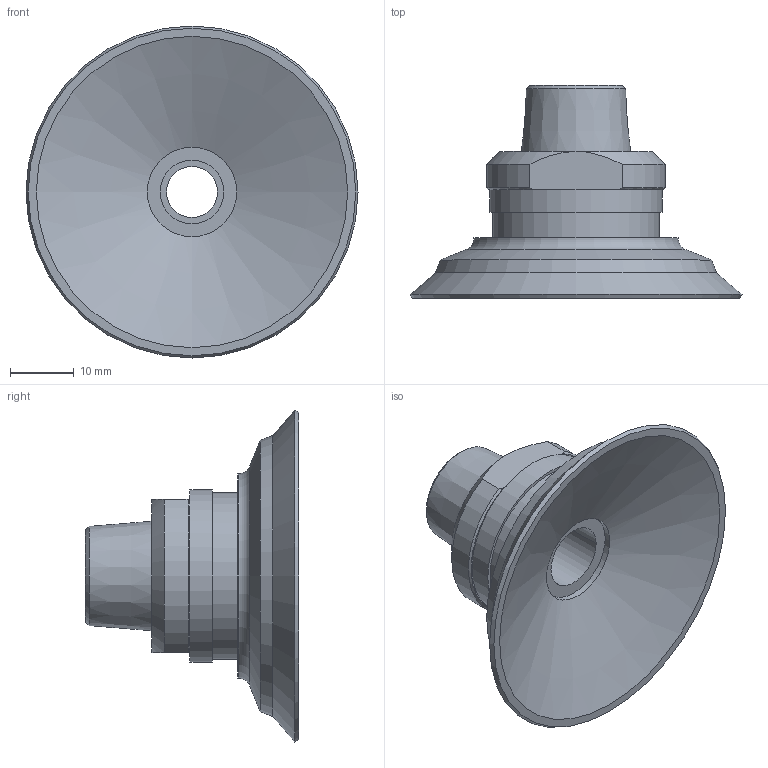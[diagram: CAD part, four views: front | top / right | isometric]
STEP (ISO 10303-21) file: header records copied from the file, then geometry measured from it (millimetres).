
FILE_DESCRIPTION (( 'STEP AP214' ), '1' );
FILE_NAME ('PU50-38MS.STEP', '2025-10-23T14:10:15', ( '' ), ( '' ), 'SwSTEP 2.0', 'SolidWorks 2025', '' );
FILE_SCHEMA (( 'AUTOMOTIVE_DESIGN' ));
Length unit declared in the file: inch
Products named in the file (3): 403.012; PU50-38MS; PU50
Assembly tree (2 placements, depth 2):
  PU50-38MS
    PU50
    403.012
Bounding box: 52 x 33.36 x 52 mm (x, y, z)
Volume: 15944.8 mm3; surface area: 9022.6 mm2
Topology: 2 solids, 2 shells, 53 faces, 105 edges, 67 vertices
Faces by surface type: cylinder 17, plane 17, cone 16, torus 3
Full cylindrical faces by diameter (mm): 8 x1, 10.5 x1, 12.5 x1, 14 x1, 26.013 x1, 27 x1, 32 x1
Entity records: 1447 total; most frequent: CARTESIAN_POINT 285, DIRECTION 254, ORIENTED_EDGE 172, AXIS2_PLACEMENT_3D 118, EDGE_CURVE 86, EDGE_LOOP 84, VERTEX_POINT 64, FACE_OUTER_BOUND 61
